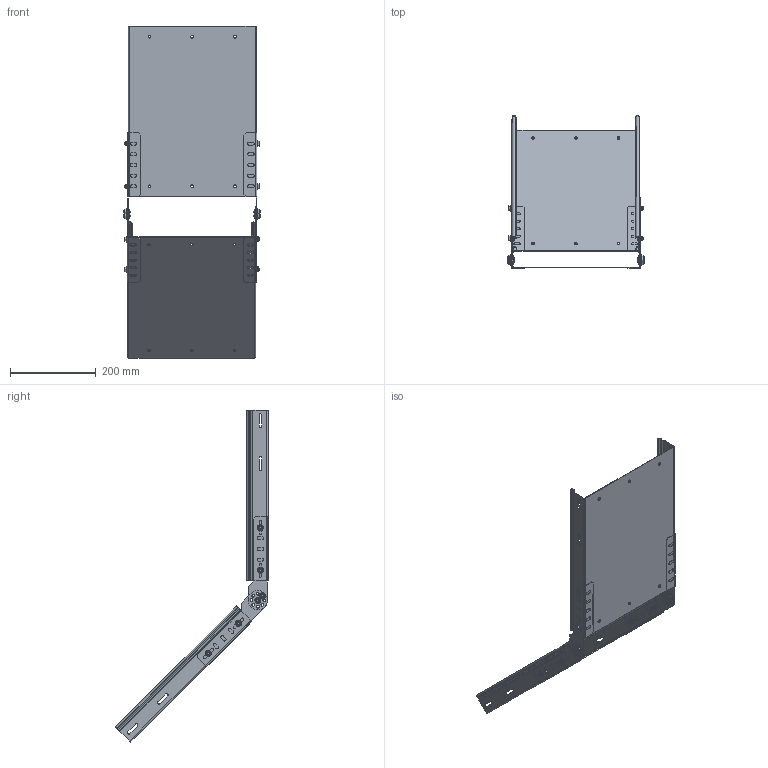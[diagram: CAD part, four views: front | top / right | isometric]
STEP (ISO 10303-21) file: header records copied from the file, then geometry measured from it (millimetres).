
FILE_DESCRIPTION (( 'STEP AP214' ), '1' );
FILE_NAME ('ﾑﾋﾓﾘ+ﾓﾋ(ﾍ)_50.STEP', '2016-10-06T21:00:23', ( '' ), ( '' ), 'SwSTEP 2.0', 'SolidWorks 2016', '' );
FILE_SCHEMA (( 'AUTOMOTIVE_DESIGN' ));
Length unit declared in the file: millimetre
Products named in the file (6): ﾑﾋﾓﾘ+ﾓﾋ(ﾍ)_50; ÓË(Í)-300õÍõ550_3000.1,5.300.50; 捀衯_50_谾謤; 083815-083830 捀衯  蚎; hex flange nut_din_Hexagon Flange Nut DIN 6923 - M6 - N; pan head cross recess screw_din_ISO 7045 - M6 x 10 - Z --- 10N
Assembly tree (30 placements, depth 2):
  ﾑﾋﾓﾘ+ﾓﾋ(ﾍ)_50
    ÓË(Í)-300õÍõ550_3000.1,5.300.50  x2
    083815-083830 捀衯  蚎  x2
    捀衯_50_谾謤  x2
    pan head cross recess screw_din_ISO 7045 - M6 x 10 - Z --- 10N  x12
    hex flange nut_din_Hexagon Flange Nut DIN 6923 - M6 - N  x12
Bounding box: 319 x 358.05 x 776.63 mm (x, y, z)
Volume: 552505.1 mm3; surface area: 772401.1 mm2
Topology: 30 solids, 30 shells, 1344 faces, 3324 edges, 2028 vertices
Faces by surface type: plane 584, cylinder 376, cone 216, torus 72, bspline 72, sphere 24
Entity records: 11318 total; most frequent: CARTESIAN_POINT 2132, DIRECTION 1938, ORIENTED_EDGE 1780, EDGE_CURVE 890, AXIS2_PLACEMENT_3D 719, VERTEX_POINT 559, VECTOR 500, LINE 500
